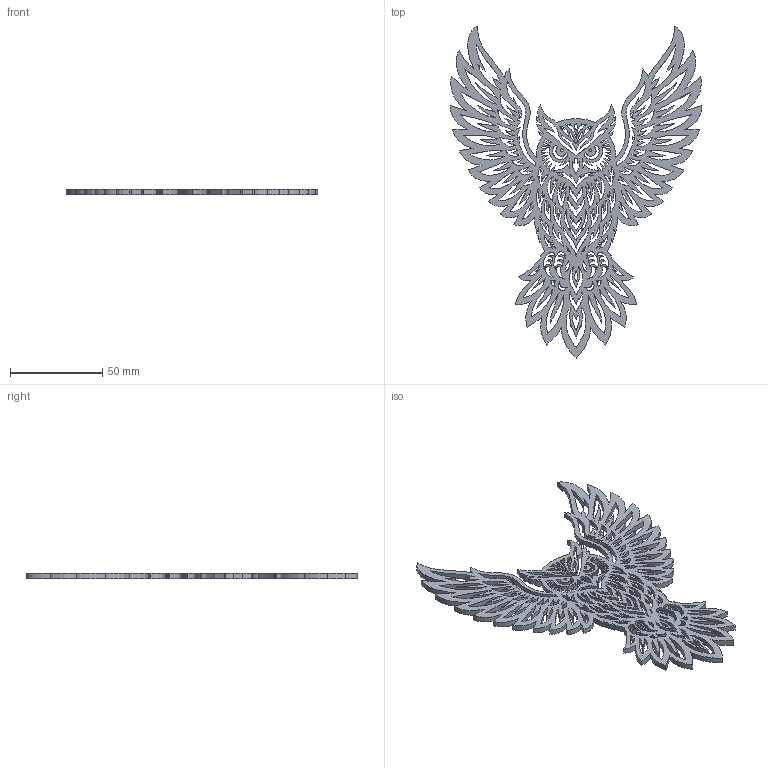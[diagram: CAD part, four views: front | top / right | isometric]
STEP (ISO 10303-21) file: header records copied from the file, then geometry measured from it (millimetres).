
FILE_DESCRIPTION(('STEP AP214'),'1');
FILE_NAME('owl-3.stp','2026-06-23T14:30:53',(' '),(' '),'Spatial InterOp 3D',' ',' ');
FILE_SCHEMA(('AUTOMOTIVE_DESIGN { 1 0 10303 214 1 1 1 1 }'));
Length unit declared in the file: millimetre
Products named in the file (1): 1782277557
Bounding box: 136.44 x 180 x 3 mm (x, y, z)
Volume: 23322.7 mm3; surface area: 33212 mm2
Topology: 1 solids, 1 shells, 684 faces, 2046 edges, 1364 vertices
Faces by surface type: extrusion 680, cylinder 2, plane 2
Full cylindrical faces by diameter (mm): 1.505 x2
Entity records: 37293 total; most frequent: CARTESIAN_POINT 15601, ORIENTED_EDGE 4088, EDGE_CURVE 2044, B_SPLINE_CURVE_WITH_KNOTS 2040, DIRECTION 1378, VERTEX_POINT 1364, VECTOR 1360, EDGE_LOOP 928
